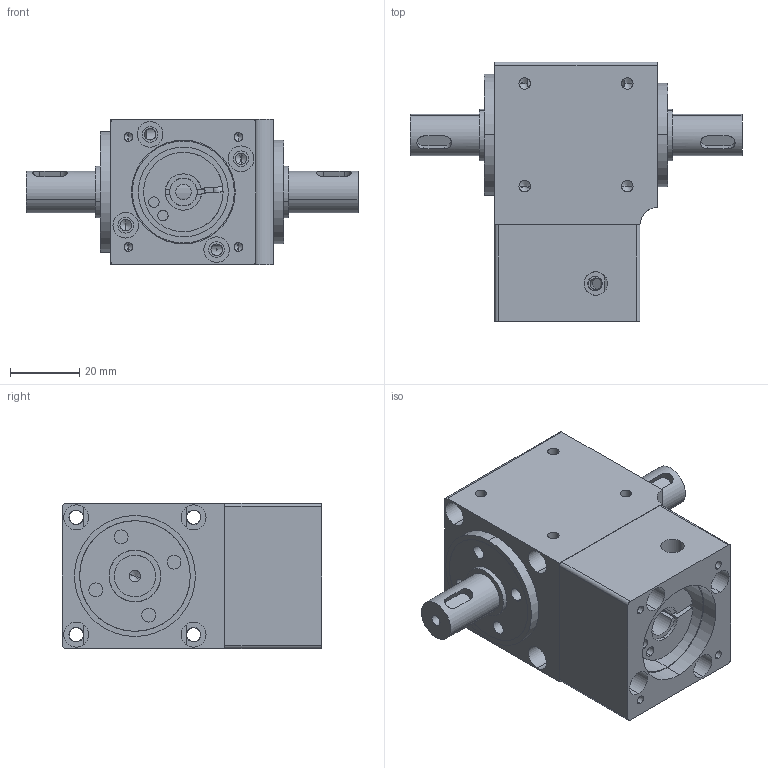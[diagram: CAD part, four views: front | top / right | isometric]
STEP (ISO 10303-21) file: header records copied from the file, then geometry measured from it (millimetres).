
FILE_DESCRIPTION (( 'STEP AP203' ), '1' );
FILE_NAME ('42双轴（松下100W）.STEP', '2020-07-27T03:18:26', ( '微软用户' ), ( '微软中国' ), 'SwSTEP 2.0', 'SolidWorks 2015', '' );
FILE_SCHEMA (( 'CONFIG_CONTROL_DESIGN' ));
Length unit declared in the file: millimetre
Products named in the file (11): 褲极; 输入轴; 蹟譫; 6001_Rolling bearings 6001 GB 276-94; 蹟譫ㄗ2ㄘ; 6002_Rolling bearings 6002 GB 276-94; 標杶ㄗ1ㄘ; 61902_Rolling bearings 61902 GB 276-94; 綴楊擘ㄗ侂狟100Wㄘ; 怀堤粣ㄗ邧粣ㄘ; 42邧粣ㄗ侂狟100Wㄘ
Assembly tree (10 placements, depth 2):
  42邧粣ㄗ侂狟100Wㄘ
    褲极
    输入轴
    蹟譫
    蹟譫ㄗ2ㄘ
    標杶ㄗ1ㄘ
    綴楊擘ㄗ侂狟100Wㄘ
    6001_Rolling bearings 6001 GB 276-94
    6002_Rolling bearings 6002 GB 276-94
    61902_Rolling bearings 61902 GB 276-94
    怀堤粣ㄗ邧粣ㄘ
Bounding box: 96 x 75 x 42 mm (x, y, z)
Volume: 104869 mm3; surface area: 56440.3 mm2
Topology: 10 solids, 10 shells, 670 faces, 2420 edges, 1593 vertices
Faces by surface type: cylinder 241, torus 177, sphere 98, plane 93, cone 61
Entity records: 29395 total; most frequent: CARTESIAN_POINT 9872, ORIENTED_EDGE 4168, DIRECTION 3664, EDGE_CURVE 2084, AXIS2_PLACEMENT_3D 1649, VERTEX_POINT 1397, CIRCLE 966, EDGE_LOOP 801
